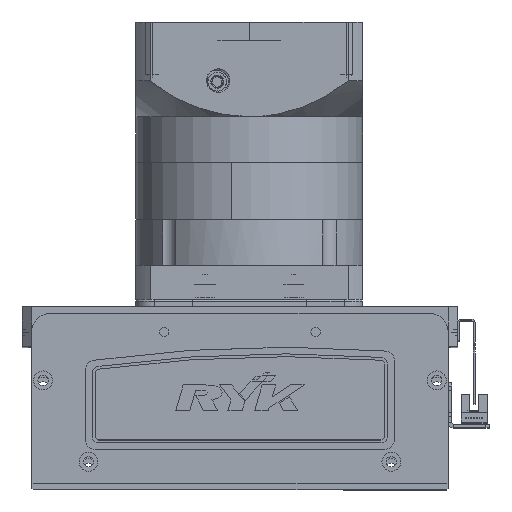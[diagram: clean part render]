
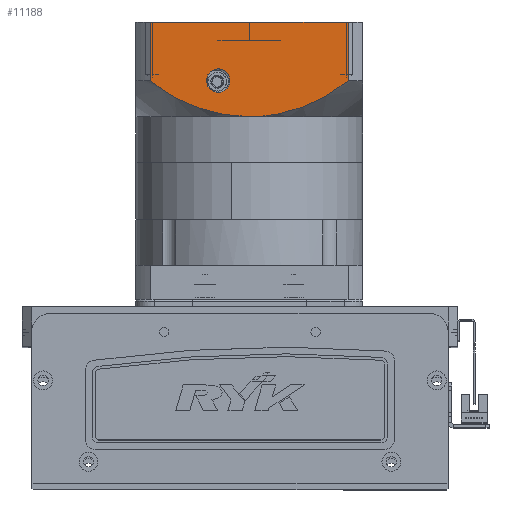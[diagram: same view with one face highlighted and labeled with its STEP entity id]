
A CAD part, top view. The second image highlights one B-rep face of the part: STEP entity #11188.
In plain terms, the highlighted planar face has unit normal (0, 0, 1) as drawn and (0, -1, 0) by its records, which use the part's own axes.
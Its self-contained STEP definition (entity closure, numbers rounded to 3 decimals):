
#2 = CARTESIAN_POINT ( 'NONE',  ( 32.196, -60., -107.007 ) ) ;
#1961 = CARTESIAN_POINT ( 'NONE',  ( -52.156, -60., -119.5 ) ) ;
#3686 = DIRECTION ( 'NONE',  ( 0., 1., 0. ) ) ;
#5505 = CARTESIAN_POINT ( 'NONE',  ( 52.156, -60., -119.5 ) ) ;
#6818 = CARTESIAN_POINT ( 'NONE',  ( -35.342, -60., -108.587 ) ) ;
#6981 = CARTESIAN_POINT ( 'NONE',  ( -60., -60., -150.5 ) ) ;
#7427 = DIRECTION ( 'NONE',  ( 0., -1., 0. ) ) ;
#7508 = VECTOR ( 'NONE', #30665, 1000. ) ;
#9371 = AXIS2_PLACEMENT_3D ( 'NONE', #27782, #38172, #32663 ) ;
#9980 = CARTESIAN_POINT ( 'NONE',  ( 44.553, -60., -113.817 ) ) ;
#10190 = CARTESIAN_POINT ( 'NONE',  ( 4.753, -60., -100.5 ) ) ;
#10829 = CARTESIAN_POINT ( 'NONE',  ( 25.577, -60., -104.596 ) ) ;
#11188 = ADVANCED_FACE ( 'NONE', ( #51130, #63837 ), #22503, .T. ) ;
#11394 = CARTESIAN_POINT ( 'NONE',  ( -60., -60., -150.5 ) ) ;
#11469 = CARTESIAN_POINT ( 'NONE',  ( -38.51, -60., -110.207 ) ) ;
#11866 = DIRECTION ( 'NONE',  ( 1., 0., 0. ) ) ;
#11909 = CARTESIAN_POINT ( 'NONE',  ( -4.747, -60., -100.604 ) ) ;
#13145 = VERTEX_POINT ( 'NONE', #41286 ) ;
#14094 = CARTESIAN_POINT ( 'NONE',  ( 16.5, -60., -119.5 ) ) ;
#14489 = VECTOR ( 'NONE', #62523, 1000. ) ;
#15708 = CARTESIAN_POINT ( 'NONE',  ( 23.329, -60., -103.886 ) ) ;
#15925 = CARTESIAN_POINT ( 'NONE',  ( 42.555, -60., -112.543 ) ) ;
#16047 = CARTESIAN_POINT ( 'NONE',  ( 0., -60., -100.5 ) ) ;
#16117 = AXIS2_PLACEMENT_3D ( 'NONE', #6981, #7427, #11866 ) ;
#16717 = EDGE_LOOP ( 'NONE', ( #42766, #60675 ) ) ;
#16796 = CARTESIAN_POINT ( 'NONE',  ( -9.477, -60., -101.046 ) ) ;
#17018 = CARTESIAN_POINT ( 'NONE',  ( 0., -60., -100.5 ) ) ;
#17109 = AXIS2_PLACEMENT_3D ( 'NONE', #14094, #3686, #43560 ) ;
#17411 = EDGE_CURVE ( 'NONE', #13145, #36689, #26932, .T. ) ;
#18882 = VERTEX_POINT ( 'NONE', #29216 ) ;
#20242 = CARTESIAN_POINT ( 'NONE',  ( 52.156, -60., -150.5 ) ) ;
#21029 = CARTESIAN_POINT ( 'NONE',  ( 48.457, -60., -116.522 ) ) ;
#21682 = CARTESIAN_POINT ( 'NONE',  ( -18.792, -60., -102.562 ) ) ;
#22329 = CARTESIAN_POINT ( 'NONE',  ( -44.656, -60., -113.73 ) ) ;
#22503 = PLANE ( 'NONE',  #16117 ) ;
#24402 = DIRECTION ( 'NONE',  ( 0., 0., 1. ) ) ;
#24546 = ORIENTED_EDGE ( 'NONE', *, *, #38465, .T. ) ;
#25921 = CARTESIAN_POINT ( 'NONE',  ( 16.426, -60., -102.169 ) ) ;
#26577 = CARTESIAN_POINT ( 'NONE',  ( -12.993, -60., -101.537 ) ) ;
#26932 = B_SPLINE_CURVE_WITH_KNOTS ( 'NONE', 3,
 ( #1961, #62378, #22329, #46898, #11469, #61944, #6818, #37003, #42470, #31920, #21682, #26577, #52623, #16796, #42246, #11909, #47333, #17018 ),
 .UNSPECIFIED., .F., .F.,
 ( 4, 2, 2, 2, 2, 2, 2, 2, 4 ),
 ( 0., 0.014, 0.018, 0.021, 0.028, 0.042, 0.046, 0.05, 0.057 ),
 .UNSPECIFIED. ) ;
#27782 = CARTESIAN_POINT ( 'NONE',  ( 16.5, -60., -119.5 ) ) ;
#29216 = CARTESIAN_POINT ( 'NONE',  ( -52.156, -60., -150.5 ) ) ;
#30413 = CARTESIAN_POINT ( 'NONE',  ( 9.454, -60., -100.914 ) ) ;
#30665 = DIRECTION ( 'NONE',  ( 0., 0., 1. ) ) ;
#31920 = CARTESIAN_POINT ( 'NONE',  ( -23.319, -60., -103.777 ) ) ;
#32663 = DIRECTION ( 'NONE',  ( 0., 0., -1. ) ) ;
#34039 = EDGE_CURVE ( 'NONE', #61140, #44013, #63861, .T. ) ;
#34751 = CIRCLE ( 'NONE', #9371, 6.25 ) ;
#34792 = EDGE_CURVE ( 'NONE', #64106, #62831, #54276, .T. ) ;
#35481 = CARTESIAN_POINT ( 'NONE',  ( 50.338, -60., -117.969 ) ) ;
#35517 = CARTESIAN_POINT ( 'NONE',  ( 52.156, -60., -150.5 ) ) ;
#35977 = VECTOR ( 'NONE', #24402, 1000. ) ;
#36689 = VERTEX_POINT ( 'NONE', #16047 ) ;
#37003 = CARTESIAN_POINT ( 'NONE',  ( -32.118, -60., -107.084 ) ) ;
#38172 = DIRECTION ( 'NONE',  ( 0., 1., 0. ) ) ;
#38465 = EDGE_CURVE ( 'NONE', #18882, #64106, #47759, .T. ) ;
#39308 = ORIENTED_EDGE ( 'NONE', *, *, #53231, .F. ) ;
#39900 = CARTESIAN_POINT ( 'NONE',  ( -52.156, -60., -97.5 ) ) ;
#41175 = CARTESIAN_POINT ( 'NONE',  ( 19.894, -60., -102.964 ) ) ;
#41286 = CARTESIAN_POINT ( 'NONE',  ( -52.156, -60., -119.5 ) ) ;
#42246 = CARTESIAN_POINT ( 'NONE',  ( -8.294, -60., -100.916 ) ) ;
#42470 = CARTESIAN_POINT ( 'NONE',  ( -29.939, -60., -106.183 ) ) ;
#42766 = ORIENTED_EDGE ( 'NONE', *, *, #34039, .T. ) ;
#43560 = DIRECTION ( 'NONE',  ( 0., 0., -1. ) ) ;
#44013 = VERTEX_POINT ( 'NONE', #50538 ) ;
#45607 = CARTESIAN_POINT ( 'NONE',  ( 0., -60., -100.5 ) ) ;
#46025 = CARTESIAN_POINT ( 'NONE',  ( 15.267, -60., -101.938 ) ) ;
#46214 = LINE ( 'NONE', #39900, #35977 ) ;
#46255 = CARTESIAN_POINT ( 'NONE',  ( 41.545, -60., -111.931 ) ) ;
#46898 = CARTESIAN_POINT ( 'NONE',  ( -39.546, -60., -110.776 ) ) ;
#47333 = CARTESIAN_POINT ( 'NONE',  ( -2.376, -60., -100.5 ) ) ;
#47759 = LINE ( 'NONE', #11394, #14489 ) ;
#48896 = CARTESIAN_POINT ( 'NONE',  ( 16.5, -60., -125.75 ) ) ;
#50429 = CARTESIAN_POINT ( 'NONE',  ( 18.739, -60., -102.681 ) ) ;
#50538 = CARTESIAN_POINT ( 'NONE',  ( 16.5, -60., -113.25 ) ) ;
#51130 = FACE_OUTER_BOUND ( 'NONE', #52936, .T. ) ;
#51301 = CARTESIAN_POINT ( 'NONE',  ( 45.542, -60., -114.478 ) ) ;
#52037 = ORIENTED_EDGE ( 'NONE', *, *, #53106, .F. ) ;
#52623 = CARTESIAN_POINT ( 'NONE',  ( -11.825, -60., -101.356 ) ) ;
#52936 = EDGE_LOOP ( 'NONE', ( #52037, #24546, #63270, #39308, #60053 ) ) ;
#53106 = EDGE_CURVE ( 'NONE', #18882, #13145, #46214, .T. ) ;
#53231 = EDGE_CURVE ( 'NONE', #36689, #62831, #53684, .T. ) ;
#53684 = B_SPLINE_CURVE_WITH_KNOTS ( 'NONE', 3,
 ( #45607, #10190, #30413, #46025, #25921, #50429, #41175, #15708, #10829, #2, #65569, #46255, #15925, #9980, #51301, #21029, #35481, #56443 ),
 .UNSPECIFIED., .F., .F.,
 ( 4, 2, 2, 2, 2, 2, 2, 2, 4 ),
 ( 0., 0.014, 0.018, 0.021, 0.028, 0.042, 0.046, 0.05, 0.057 ),
 .UNSPECIFIED. ) ;
#54276 = LINE ( 'NONE', #35517, #7508 ) ;
#56443 = CARTESIAN_POINT ( 'NONE',  ( 52.156, -60., -119.5 ) ) ;
#57136 = EDGE_CURVE ( 'NONE', #44013, #61140, #34751, .T. ) ;
#60053 = ORIENTED_EDGE ( 'NONE', *, *, #17411, .F. ) ;
#60675 = ORIENTED_EDGE ( 'NONE', *, *, #57136, .T. ) ;
#61140 = VERTEX_POINT ( 'NONE', #48896 ) ;
#61944 = CARTESIAN_POINT ( 'NONE',  ( -36.409, -60., -109.113 ) ) ;
#62378 = CARTESIAN_POINT ( 'NONE',  ( -48.52, -60., -116.438 ) ) ;
#62523 = DIRECTION ( 'NONE',  ( 1., 0., 0. ) ) ;
#62831 = VERTEX_POINT ( 'NONE', #5505 ) ;
#63270 = ORIENTED_EDGE ( 'NONE', *, *, #34792, .T. ) ;
#63837 = FACE_BOUND ( 'NONE', #16717, .T. ) ;
#63861 = CIRCLE ( 'NONE', #17109, 6.25 ) ;
#64106 = VERTEX_POINT ( 'NONE', #20242 ) ;
#65569 = CARTESIAN_POINT ( 'NONE',  ( 36.444, -60., -108.986 ) ) ;
